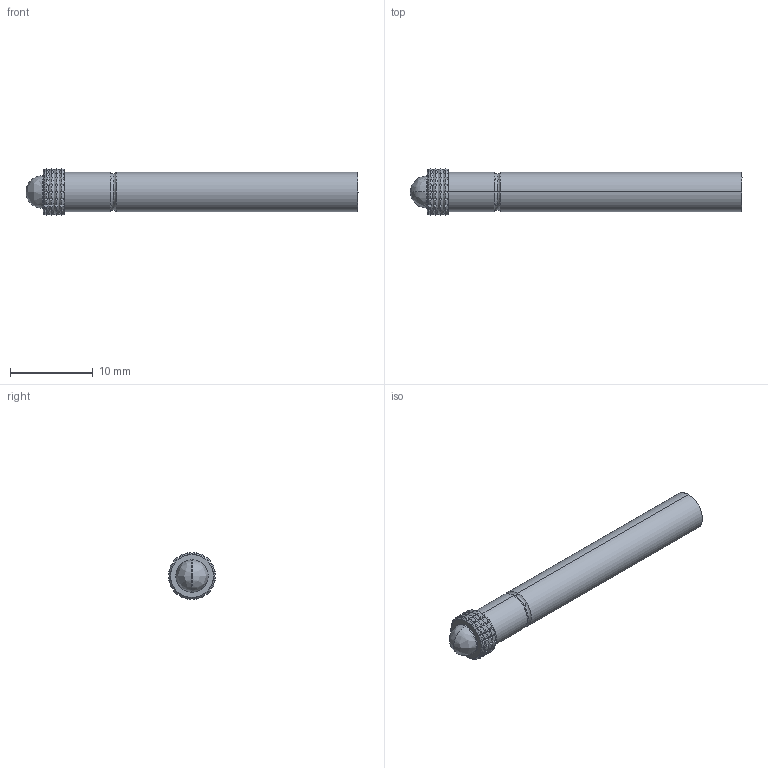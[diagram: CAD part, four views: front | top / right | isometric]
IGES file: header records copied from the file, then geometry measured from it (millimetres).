
Start section: SolidWorks IGES file using analytic representation for surfaces
Global section: file name: O:\PYLON\IGES FILES\P4301\P4301-1R REC'D.IGS; native system: SolidWorks 2015; preprocessor: SolidWorks 2015; author: kgolden; date: 171020.121726; units: inch
Bounding box: 40.21 x 5.7 x 5.7 mm (x, y, z)
Surface area: 1141.8 mm2 (no closed solid volume)
Topology: 0 solids, 0 shells, 374 faces, 1965 edges, 1965 vertices
Faces by surface type: revolution 193, bspline 181
